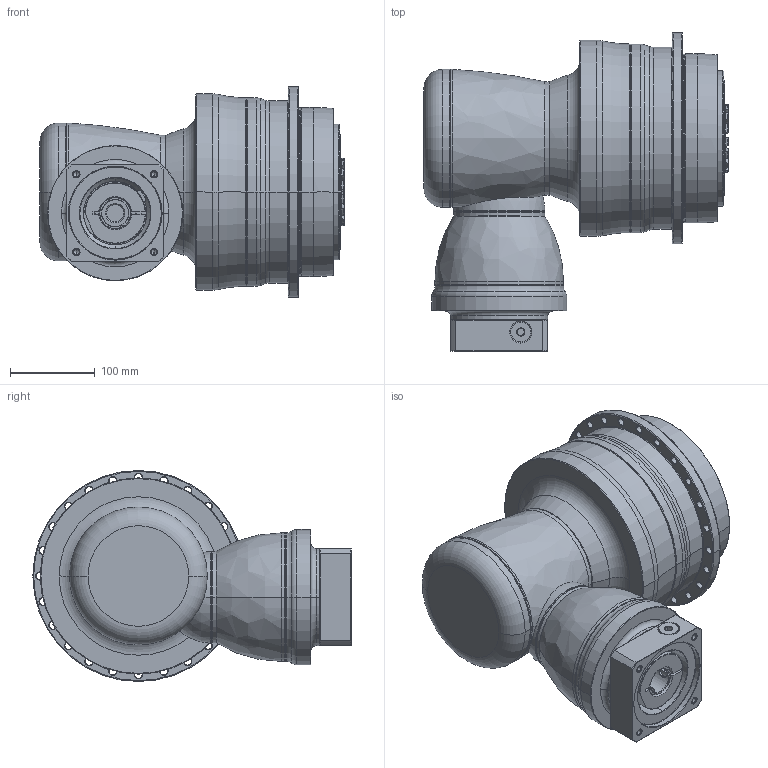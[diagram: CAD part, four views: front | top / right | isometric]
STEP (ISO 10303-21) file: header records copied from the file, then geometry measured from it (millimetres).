
FILE_DESCRIPTION((''),'2;1');
FILE_NAME('APCK200_3ST_32-P0409710201_ASM','2018-05-14T',('d01226'),(''),'PRO/ENGINEER BY PARAMETRIC TECHNOLOGY CORPORATION, 2008410','PRO/ENGINEER BY PARAMETRIC TECHNOLOGY CORPORATION, 2008410','');
FILE_SCHEMA(('CONFIG_CONTROL_DESIGN'));
Length unit declared in the file: millimetre
Products named in the file (13): P1008500002; P1832600001; P0278601003; P0359660103; P1211600001; P1315500001; P1007501001; P1318501201; P0409710201; P0503700010; P0912552001; 21711418017; APCK200_3ST_32-P0409710201_ASM
Assembly tree (12 placements, depth 2):
  APCK200_3ST_32-P0409710201_ASM
    P1008500002
    P1832600001
    P0278601003
    P0359660103
    P1211600001
    P1315500001
    P1007501001
    P1318501201
    P0409710201
    P0503700010
    P0912552001
    21711418017
Bounding box: 359.6 x 376.25 x 249.5 mm (x, y, z)
Volume: 12284982.1 mm3; surface area: 899254.1 mm2
Topology: 13 solids, 23 shells, 704 faces, 1655 edges, 1006 vertices
Faces by surface type: cone 219, cylinder 219, plane 128, torus 115, bspline 21, sphere 2
Entity records: 25935 total; most frequent: CARTESIAN_POINT 9222, DIRECTION 3764, ORIENTED_EDGE 3240, AXIS2_PLACEMENT_3D 1646, EDGE_CURVE 1641, VERTEX_POINT 1006, CIRCLE 928, EDGE_LOOP 811
